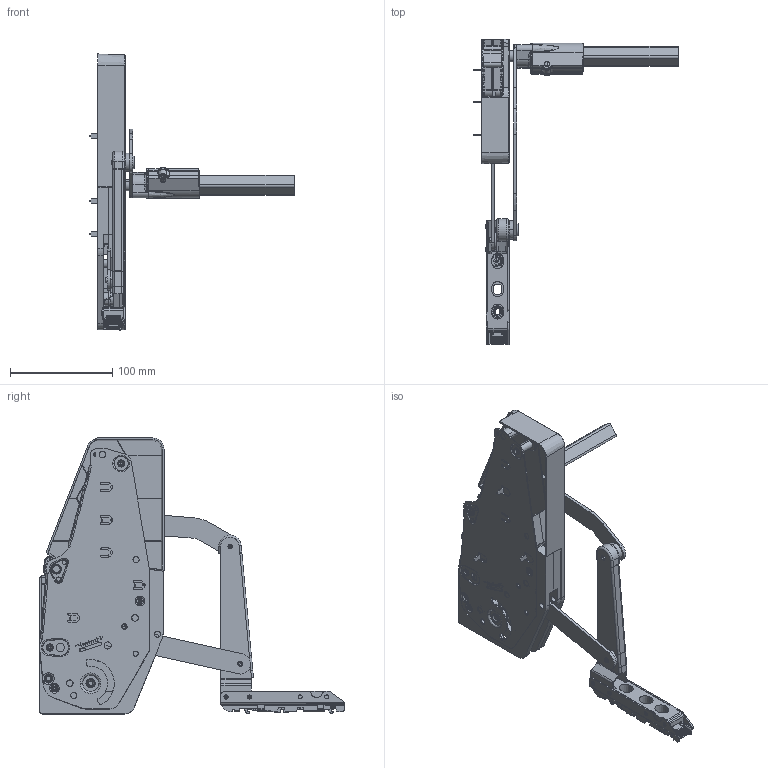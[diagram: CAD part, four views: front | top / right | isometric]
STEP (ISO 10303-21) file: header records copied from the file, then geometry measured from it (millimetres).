
FILE_DESCRIPTION((''),'2;1');
FILE_NAME('SLB_KUNDEN_RECHTS_CLOSED_ASM','2015-02-03T',('7ke10'),('Kesseboehmer'),'PRO/ENGINEER BY PARAMETRIC TECHNOLOGY CORPORATION, 2014200','PRO/ENGINEER BY PARAMETRIC TECHNOLOGY CORPORATION, 2014200','');
FILE_SCHEMA(('AUTOMOTIVE_DESIGN { 1 0 10303 214 1 1 1 1 }'));
Products named in the file (50): 582726_MIR_2; 582727_MIR_2; 150691_MIR_1; 150692_MIR_1; 150699_MIR_1; 150700_MIR_1; 582730_MIR_ASM_1_ASM_ASM; 582651_MIR_2; 150776_MIR_2; 582469_MIR_ASM_2_ASM_ASM; 150697_MIR_2; 150701_MIR_1; 150698_MIR_1; 582457_MIR_2; MANIFOLD_SOLID_BREP_105167; MANIFOLD_SOLID_BREP_105494; 150720_MIR_2_ASM_ASM; 150719_MIR_2; 09_0122_258_001_0000_00_MIR_2; MANIFOLD_SOLID_BREP_125941; MANIFOLD_SOLID_BREP_126312; MANIFOLD_SOLID_BREP_126683; 08_0095_276_301_0000_00_MIR_2_A_ASM; 08_0095_278_301_0000_00_MIR_1; 09_0311_228_001_0000_00_MIR_1; 09_0018_093_001_0000_00_MIR_2; 09_0318_223_001_0000_00_MIR_1; 10_3637_002_201_0000_00_MIR_ASM_ASM; 150721_MIR_1; 150718_MIR_2; 150724_MIR_2; 150722_MIR_1; 150723_MIR_1; 150717_MIR_2; 582468_MIR_ASM_3_ASM_ASM; 582459_MIR_2; 150747_MIR_2; 150743_MIR_2; 582463_MIR_2; 150745_MIR_2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
Assembly tree (55 placements, depth 7):
  SLB_KUNDEN_RECHTS_CLOSED_ASM
    SLB_RECHTS_GESCHLOSSEN_KUNDEN_A_ASM
      SLB_RECHTS_KUNDEN_ASM_6_ASM_ASM
        582730_MIR_ASM_1_ASM_ASM
          582726_MIR_2
          582727_MIR_2
          150691_MIR_1
          150692_MIR_1
          150699_MIR_1
          150700_MIR_1  x2
        582469_MIR_ASM_2_ASM_ASM
          582651_MIR_2
          150776_MIR_2
        150697_MIR_2
        150701_MIR_1
        150699_MIR_1
        150698_MIR_1
        582468_MIR_ASM_3_ASM_ASM
          582457_MIR_2
          150720_MIR_2_ASM_ASM
            MANIFOLD_SOLID_BREP_105167
            MANIFOLD_SOLID_BREP_105494
          150719_MIR_2
          09_0122_258_001_0000_00_MIR_2
          10_3637_002_201_0000_00_MIR_ASM_ASM
            08_0095_276_301_0000_00_MIR_2_A_ASM
              MANIFOLD_SOLID_BREP_125941
              MANIFOLD_SOLID_BREP_126312
              MANIFOLD_SOLID_BREP_126683
            08_0095_278_301_0000_00_MIR_1
            09_0311_228_001_0000_00_MIR_1
            09_0018_093_001_0000_00_MIR_2
            09_0318_223_001_0000_00_MIR_1
          150721_MIR_1  x2
          150718_MIR_2
          150724_MIR_2
          150722_MIR_1
          150723_MIR_1
          150717_MIR_2
        582438_MIR_ASM_2_ASM_ASM
          582459_MIR_2
          150747_MIR_2
          150743_MIR_2
          582463_MIR_2
          582495_MIR_ASM_2_ASM_ASM
            150745_MIR_2
            150744_MIR_2
            MZ-0-31152-115100-00_MIR_1
          150758_MIR_2  x2
        MZ-121042-00_MIR_1  x3
        09_0036_312_RECHTS_1
Bounding box: 200.2 x 299.09 x 270.45 mm (x, y, z)
Volume: 281455.4 mm3; surface area: 317052.6 mm2
Topology: 43 solids, 51 shells, 3883 faces, 10368 edges, 6657 vertices
Faces by surface type: plane 1848, cylinder 1298, cone 314, torus 255, bspline 130, sphere 28, extrusion 10
Entity records: 158703 total; most frequent: CARTESIAN_POINT 29889, DIRECTION 20352, ORIENTED_EDGE 20040, EDGE_CURVE 10020, PRESENTATION_STYLE_ASSIGNMENT 9226, STYLED_ITEM 8989, CURVE_STYLE 8504, AXIS2_PLACEMENT_3D 7326
